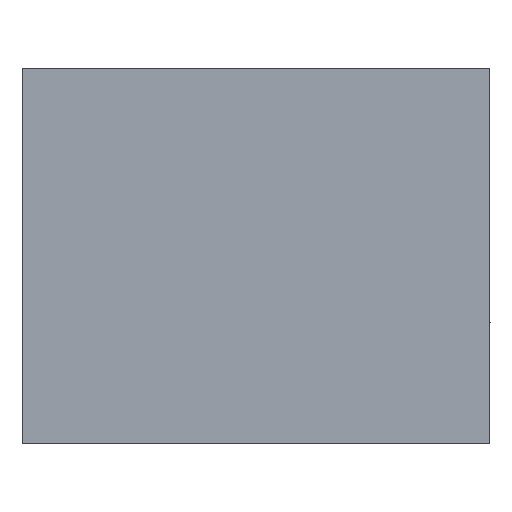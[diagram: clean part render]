
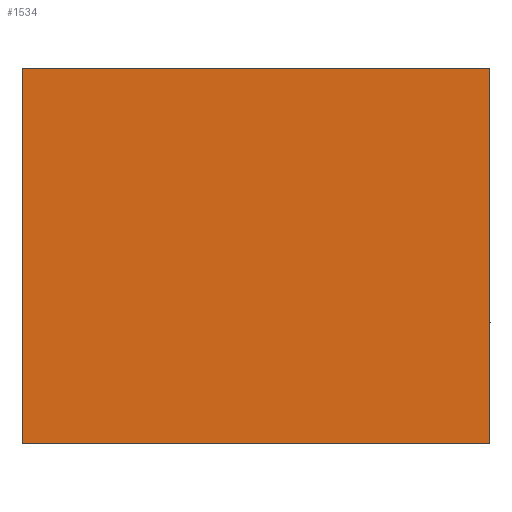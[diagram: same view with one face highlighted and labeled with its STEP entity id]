
A CAD part, left-side view. The second image highlights one B-rep face of the part: STEP entity #1534.
In plain terms, the highlighted planar face has unit normal (-1, 0, 0).
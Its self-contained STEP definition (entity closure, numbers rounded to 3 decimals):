
#1514=AXIS2_PLACEMENT_3D('Plane Axis2P3D',#1511,#1512,#1513) ;
#212=CARTESIAN_POINT('Vertex',(-110.,14.75,-9.)) ;
#215=CARTESIAN_POINT('Line Origine',(-110.,14.75,0.)) ;
#219=CARTESIAN_POINT('Vertex',(-110.,14.75,9.)) ;
#1485=CARTESIAN_POINT('Line Origine',(-110.,3.5,9.)) ;
#1489=CARTESIAN_POINT('Vertex',(-110.,-7.75,9.)) ;
#1511=CARTESIAN_POINT('Axis2P3D Location',(-110.,14.75,9.)) ;
#1516=CARTESIAN_POINT('Line Origine',(-110.,-7.75,0.)) ;
#1520=CARTESIAN_POINT('Vertex',(-110.,-7.75,-9.)) ;
#1523=CARTESIAN_POINT('Line Origine',(-110.,3.5,-9.)) ;
#216=DIRECTION('Vector Direction',(0.,0.,-1.)) ;
#1486=DIRECTION('Vector Direction',(0.,-1.,0.)) ;
#1512=DIRECTION('Axis2P3D Direction',(1.,0.,-0.)) ;
#1513=DIRECTION('Axis2P3D XDirection',(0.,1.,0.)) ;
#1517=DIRECTION('Vector Direction',(0.,0.,-1.)) ;
#1524=DIRECTION('Vector Direction',(0.,-1.,0.)) ;
#217=VECTOR('Line Direction',#216,1.) ;
#1487=VECTOR('Line Direction',#1486,1.) ;
#1518=VECTOR('Line Direction',#1517,1.) ;
#1525=VECTOR('Line Direction',#1524,1.) ;
#1529=ORIENTED_EDGE('',*,*,#1522,.F.) ;
#1530=ORIENTED_EDGE('',*,*,#1491,.F.) ;
#1531=ORIENTED_EDGE('',*,*,#221,.T.) ;
#1532=ORIENTED_EDGE('',*,*,#1527,.T.) ;
#1534=ADVANCED_FACE('\X2\62535B545C3A5BF8\X0\(%\X2\6839636E\X0\)\X2\5185516D89D2570667F1593487BA948976847C7B578B\X0\1',(#1533),#1515,.F.) ;
#221=EDGE_CURVE('',#220,#213,#218,.T.) ;
#1491=EDGE_CURVE('',#220,#1490,#1488,.T.) ;
#1522=EDGE_CURVE('',#1490,#1521,#1519,.T.) ;
#1527=EDGE_CURVE('',#213,#1521,#1526,.T.) ;
#1528=EDGE_LOOP('',(#1529,#1530,#1531,#1532)) ;
#1533=FACE_OUTER_BOUND('',#1528,.T.) ;
#218=LINE('Line',#215,#217) ;
#1488=LINE('Line',#1485,#1487) ;
#1519=LINE('Line',#1516,#1518) ;
#1526=LINE('Line',#1523,#1525) ;
#1515=PLANE('',#1514) ;
#213=VERTEX_POINT('',#212) ;
#220=VERTEX_POINT('',#219) ;
#1490=VERTEX_POINT('',#1489) ;
#1521=VERTEX_POINT('',#1520) ;
